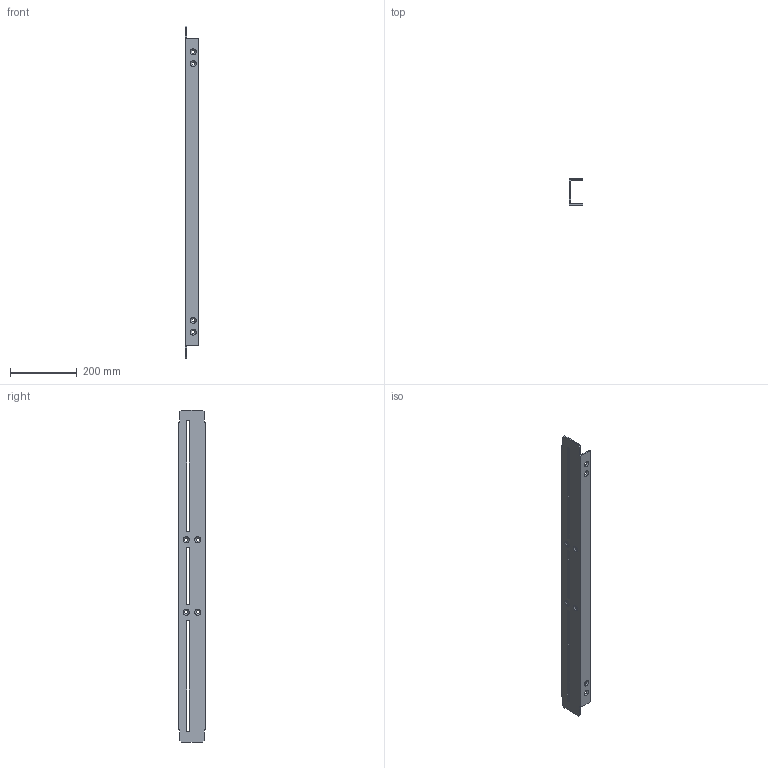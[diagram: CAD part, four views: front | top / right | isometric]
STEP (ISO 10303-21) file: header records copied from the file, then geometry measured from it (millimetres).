
FILE_DESCRIPTION (( 'STEP AP214' ), '1' );
FILE_NAME ('ÂØÀÅ.746222.009 Øâåëëåð.STEP', '2024-04-17T13:46:30', ( '' ), ( '' ), 'SwSTEP 2.0', 'SolidWorks 2019', '' );
FILE_SCHEMA (( 'AUTOMOTIVE_DESIGN' ));
Length unit declared in the file: millimetre
Products named in the file (1): ÂØÀÅ.746222.009 Øâåëëåð
Bounding box: 40 x 80 x 992 mm (x, y, z)
Volume: 554545.6 mm3; surface area: 287181.9 mm2
Topology: 1 solids, 1 shells, 63 faces, 183 edges, 122 vertices
Faces by surface type: plane 28, cone 24, cylinder 11
Entity records: 2201 total; most frequent: DIRECTION 381, CARTESIAN_POINT 369, ORIENTED_EDGE 366, EDGE_CURVE 183, AXIS2_PLACEMENT_3D 134, VERTEX_POINT 122, LINE 113, VECTOR 113
